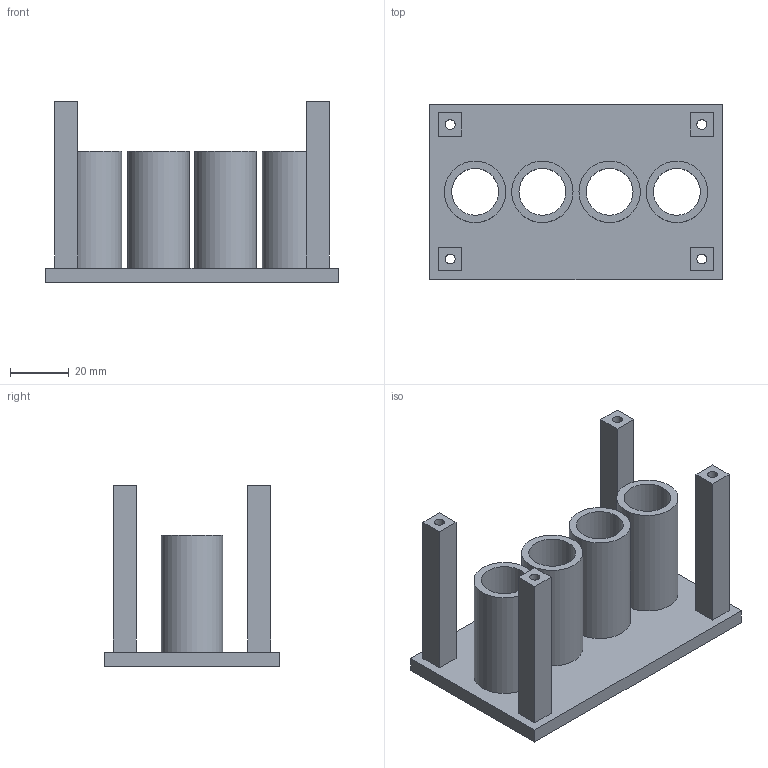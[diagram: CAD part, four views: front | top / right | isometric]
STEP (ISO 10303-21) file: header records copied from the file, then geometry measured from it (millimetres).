
FILE_DESCRIPTION(('Open CASCADE Model'),'2;1');
FILE_NAME('Open CASCADE Shape Model','2026-10-21T17:23:51',('Author'),( 'Open CASCADE'),'Open CASCADE STEP processor 7.9','Open CASCADE 7.9' ,'Unknown');
FILE_SCHEMA(('AUTOMOTIVE_DESIGN { 1 0 10303 214 1 1 1 1 }'));
Length unit declared in the file: millimetre
Products named in the file (1): Open CASCADE STEP translator 7.9 33
Bounding box: 100 x 60 x 62 mm (x, y, z)
Volume: 61462.2 mm3; surface area: 41354.8 mm2
Topology: 1 solids, 1 shells, 46 faces, 104 edges, 68 vertices
Faces by surface type: plane 30, cylinder 12, cone 4
Full cylindrical faces by diameter (mm): 3.4 x4, 16 x4, 21 x4
Entity records: 2726 total; most frequent: CARTESIAN_POINT 523, DIRECTION 418, LINE 260, VECTOR 260, ORIENTED_EDGE 208, PCURVE 208, DEFINITIONAL_REPRESENTATION 208, EDGE_CURVE 104
